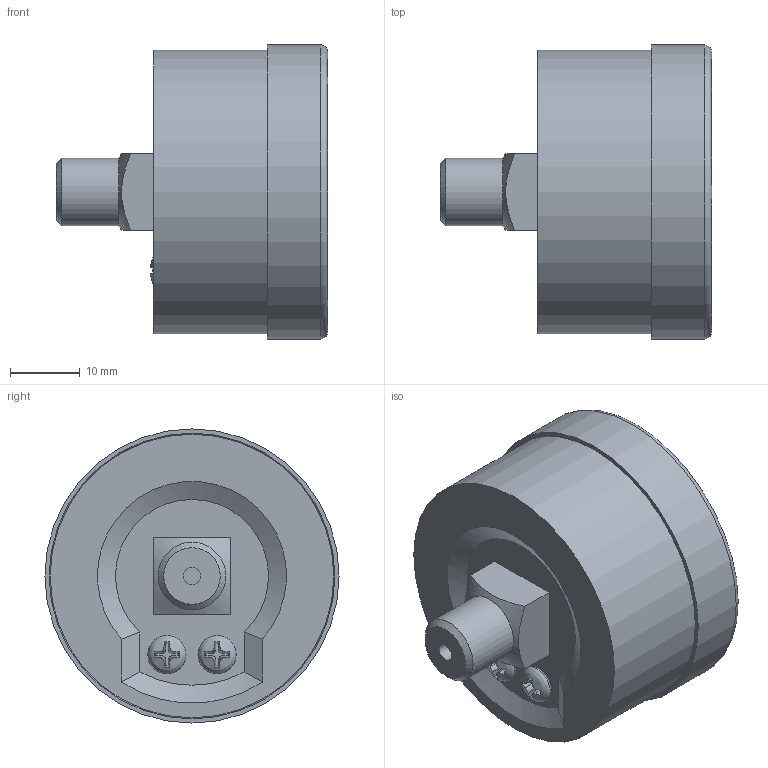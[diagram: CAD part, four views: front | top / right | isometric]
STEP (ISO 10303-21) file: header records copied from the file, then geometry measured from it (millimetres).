
FILE_DESCRIPTION(('STEP AP203'), '1');
FILE_NAME('VT.TM40.TC.01', '', ('UNSPECIFIED'), ('UNSPECIFIED'), 'C3D Converter', 'C3D Toolkit', '');
FILE_SCHEMA(('CONFIG_CONTROL_DESIGN'));
Length unit declared in the file: millimetre
Products named in the file (1): ВР.408667.012.000 СБ
Bounding box: 39.01 x 42.3 x 42.3 mm (x, y, z)
Volume: 8149.7 mm3; surface area: 17542.8 mm2
Topology: 8 solids, 8 shells, 101 faces, 228 edges, 148 vertices
Faces by surface type: plane 62, cylinder 22, cone 11, torus 4, bspline 2
Full cylindrical faces by diameter (mm): 2.5 x1, 3 x2, 3.5 x2, 9.728 x1, 39 x1, 39.6 x1, 40.7 x1, 40.8 x1, 41.1 x1, 42.3 x1
Entity records: 4342 total; most frequent: CARTESIAN_POINT 2153, ORIENTED_EDGE 406, DIRECTION 395, EDGE_CURVE 203, VERTEX_POINT 148, AXIS2_PLACEMENT_3D 147, EDGE_LOOP 139, ADVANCED_FACE 101
